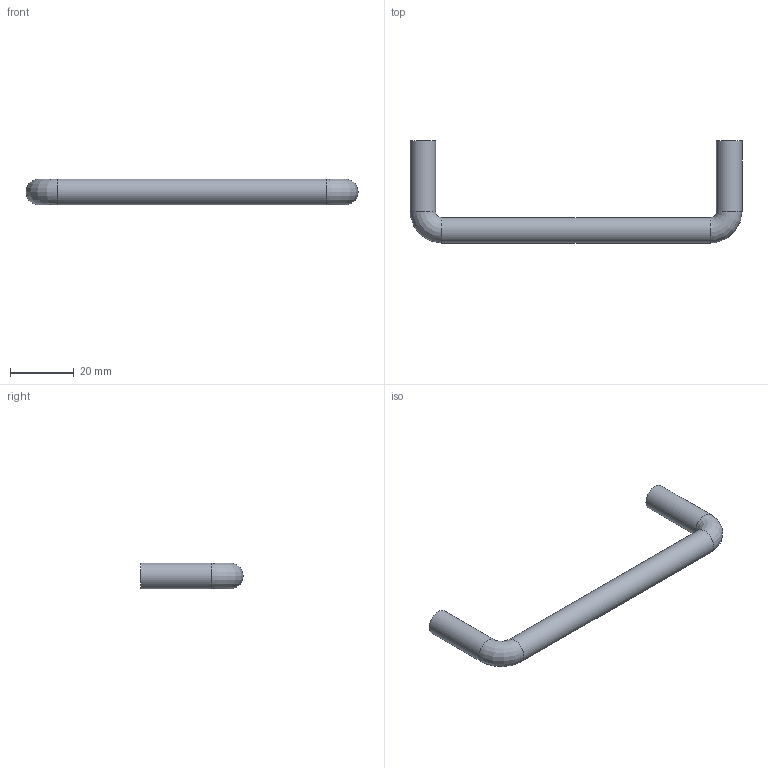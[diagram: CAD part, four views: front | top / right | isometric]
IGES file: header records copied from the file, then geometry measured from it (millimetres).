
Start section: Data from Parasolid IGES Translator 15.0.47, Copyright(c) 2006 Siemens P LM Software. All Rights Reserved.
Global section: file name: 9069942.igs; native system:  By UGS Corp.; preprocessor: XPlus GENERIC/IGES 3.0; author: Noname; organization: Noname; date: 20140122.155403; units: millimetre
Bounding box: 104 x 32 x 8 mm (x, y, z)
Surface area: 4042.6 mm2 (no closed solid volume)
Topology: 0 solids, 0 shells, 11 faces, 42 edges, 38 vertices
Faces by surface type: revolution 7, extrusion 4
